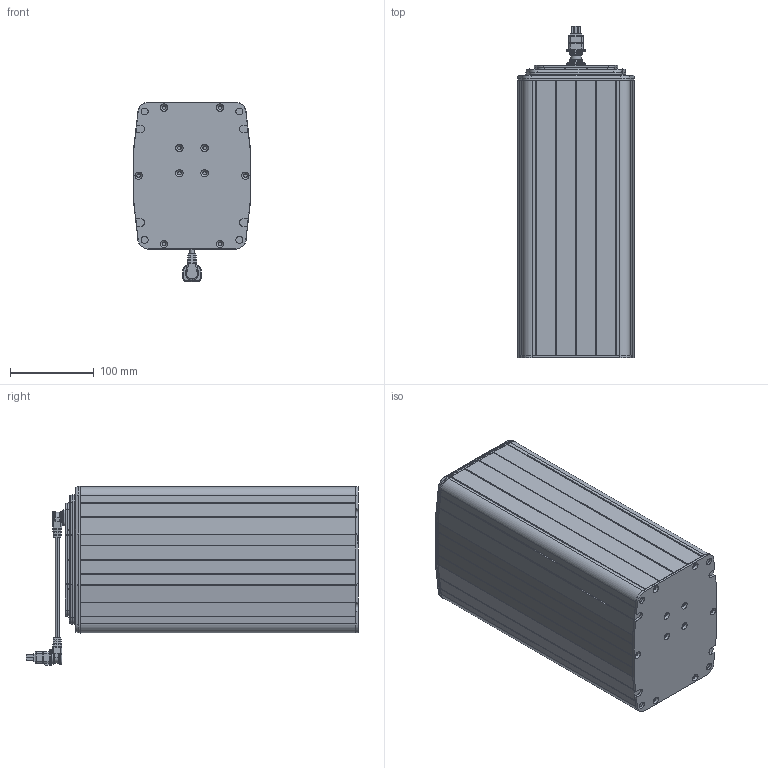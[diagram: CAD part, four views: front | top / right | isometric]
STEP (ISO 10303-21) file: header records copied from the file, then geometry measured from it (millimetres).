
FILE_DESCRIPTION((''),'2;1');
FILE_NAME('0-DLC1-WEB_ASM','2016-07-07T',('Test'),(''),'PRO/ENGINEER BY PARAMETRIC TECHNOLOGY CORPORATION, 2008400','PRO/ENGINEER BY PARAMETRIC TECHNOLOGY CORPORATION, 2008400','');
FILE_SCHEMA(('AUTOMOTIVE_DESIGN_CC2 { 1 2 10303 214 -1 1 5 2 }'));
Length unit declared in the file: millimetre
Products named in the file (4): 0-1; 0-2; 0-3; 0-DLC1-WEB_ASM
Assembly tree (3 placements, depth 2):
  0-DLC1-WEB_ASM
    0-1
    0-2
    0-3
Bounding box: 139.9 x 397 x 214.25 mm (x, y, z)
Surface area: 690072.4 mm2
Topology: 3 solids, 20 shells, 1368 faces, 3660 edges, 2387 vertices
Faces by surface type: plane 763, cylinder 419, cone 120, torus 58, bspline 8
Entity records: 53404 total; most frequent: CARTESIAN_POINT 8890, ORIENTED_EDGE 7320, DIRECTION 7241, EDGE_CURVE 3660, AXIS2_PLACEMENT_3D 2416, VECTOR 2409, LINE 2409, VERTEX_POINT 2387
